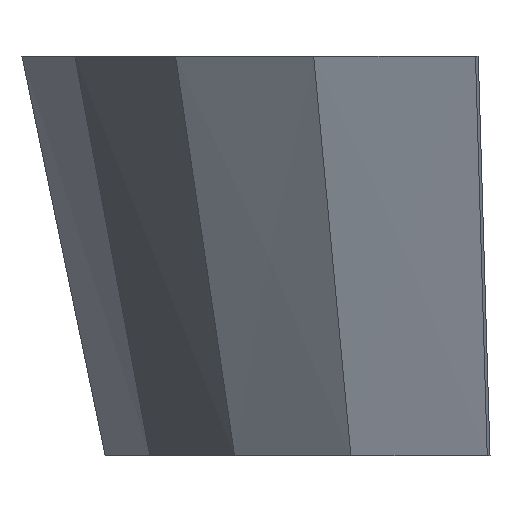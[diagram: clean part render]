
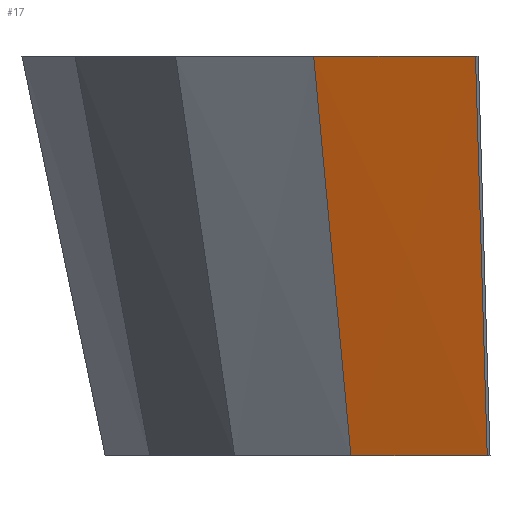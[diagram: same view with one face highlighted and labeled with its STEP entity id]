
A CAD part, left-side view. The second image highlights one B-rep face of the part: STEP entity #17.
In plain terms, the highlighted free-form (B-spline) face has degree [1, 1] with [2, 2] control points.
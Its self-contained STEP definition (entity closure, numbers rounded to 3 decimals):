
#17 = ADVANCED_FACE('',(#18),#31,.T.);
#18 = FACE_BOUND('',#19,.T.);
#19 = EDGE_LOOP('',(#20,#54,#79,#106));
#20 = ORIENTED_EDGE('',*,*,#21,.F.);
#21 = EDGE_CURVE('',#22,#24,#26,.T.);
#22 = VERTEX_POINT('',#23);
#23 = CARTESIAN_POINT('',(-121.386,13.051,-175.));
#24 = VERTEX_POINT('',#25);
#25 = CARTESIAN_POINT('',(-112.144,10.995,-245.));
#26 = SURFACE_CURVE('',#27,(#30,#42),.PCURVE_S1.);
#27 = B_SPLINE_CURVE_WITH_KNOTS('',1,(#28,#29),.UNSPECIFIED.,.F.,.F.,(2,
    2),(0.,1.),.PIECEWISE_BEZIER_KNOTS.);
#28 = CARTESIAN_POINT('',(-124.027,13.639,-155.));
#29 = CARTESIAN_POINT('',(-112.144,10.995,-245.));
#30 = PCURVE('',#31,#36);
#31 = B_SPLINE_SURFACE_WITH_KNOTS('',1,1,(
    (#32,#33)
    ,(#34,#35
    )),.UNSPECIFIED.,.F.,.F.,.F.,(2,2),(2,2),(0.,31.092),(0.,1.
    ),.PIECEWISE_BEZIER_KNOTS.);
#32 = CARTESIAN_POINT('',(-124.027,13.639,-155.));
#33 = CARTESIAN_POINT('',(-112.144,10.995,-245.));
#34 = CARTESIAN_POINT('',(-114.709,43.302,-155.));
#35 = CARTESIAN_POINT('',(-103.944,34.906,-245.));
#36 = DEFINITIONAL_REPRESENTATION('',(#37),#41);
#37 = LINE('',#38,#39);
#38 = CARTESIAN_POINT('',(0.,0.));
#39 = VECTOR('',#40,1.);
#40 = DIRECTION('',(0.,1.));
#41 = ( GEOMETRIC_REPRESENTATION_CONTEXT(2) 
PARAMETRIC_REPRESENTATION_CONTEXT() REPRESENTATION_CONTEXT('2D SPACE',''
  ) );
#42 = PCURVE('',#43,#48);
#43 = B_SPLINE_SURFACE_WITH_KNOTS('',1,1,(
    (#44,#45)
    ,(#46,#47)),.UNSPECIFIED.,.F.,.F.,.F.,(2,2),(2,2),(0.,3.5),(0.,1.),
  .PIECEWISE_BEZIER_KNOTS.);
#44 = CARTESIAN_POINT('',(-120.561,13.152,-155.));
#45 = CARTESIAN_POINT('',(-108.678,10.508,-245.));
#46 = CARTESIAN_POINT('',(-124.027,13.639,-155.));
#47 = CARTESIAN_POINT('',(-112.144,10.995,-245.));
#48 = DEFINITIONAL_REPRESENTATION('',(#49),#53);
#49 = LINE('',#50,#51);
#50 = CARTESIAN_POINT('',(3.5,0.));
#51 = VECTOR('',#52,1.);
#52 = DIRECTION('',(0.,1.));
#53 = ( GEOMETRIC_REPRESENTATION_CONTEXT(2) 
PARAMETRIC_REPRESENTATION_CONTEXT() REPRESENTATION_CONTEXT('2D SPACE',''
  ) );
#54 = ORIENTED_EDGE('',*,*,#55,.F.);
#55 = EDGE_CURVE('',#56,#22,#58,.T.);
#56 = VERTEX_POINT('',#57);
#57 = CARTESIAN_POINT('',(-112.316,41.436,-175.));
#58 = SURFACE_CURVE('',#59,(#62,#68),.PCURVE_S1.);
#59 = B_SPLINE_CURVE_WITH_KNOTS('',1,(#60,#61),.UNSPECIFIED.,.F.,.F.,(2,
    2),(0.,1.),.PIECEWISE_BEZIER_KNOTS.);
#60 = CARTESIAN_POINT('',(-112.316,41.436,-175.));
#61 = CARTESIAN_POINT('',(-121.386,13.051,-175.));
#62 = PCURVE('',#31,#63);
#63 = DEFINITIONAL_REPRESENTATION('',(#64),#67);
#64 = B_SPLINE_CURVE_WITH_KNOTS('',1,(#65,#66),.UNSPECIFIED.,.F.,.F.,(2,
    2),(0.,1.),.PIECEWISE_BEZIER_KNOTS.);
#65 = CARTESIAN_POINT('',(31.092,0.222));
#66 = CARTESIAN_POINT('',(0.,0.222));
#67 = ( GEOMETRIC_REPRESENTATION_CONTEXT(2) 
PARAMETRIC_REPRESENTATION_CONTEXT() REPRESENTATION_CONTEXT('2D SPACE',''
  ) );
#68 = PCURVE('',#69,#74);
#69 = PLANE('',#70);
#70 = AXIS2_PLACEMENT_3D('',#71,#72,#73);
#71 = CARTESIAN_POINT('',(-250.,-100.,-175.));
#72 = DIRECTION('',(0.,0.,1.));
#73 = DIRECTION('',(1.,0.,0.));
#74 = DEFINITIONAL_REPRESENTATION('',(#75),#78);
#75 = B_SPLINE_CURVE_WITH_KNOTS('',1,(#76,#77),.UNSPECIFIED.,.F.,.F.,(2,
    2),(0.,1.),.PIECEWISE_BEZIER_KNOTS.);
#76 = CARTESIAN_POINT('',(137.684,141.436));
#77 = CARTESIAN_POINT('',(128.614,113.051));
#78 = ( GEOMETRIC_REPRESENTATION_CONTEXT(2) 
PARAMETRIC_REPRESENTATION_CONTEXT() REPRESENTATION_CONTEXT('2D SPACE',''
  ) );
#79 = ORIENTED_EDGE('',*,*,#80,.T.);
#80 = EDGE_CURVE('',#56,#81,#83,.T.);
#81 = VERTEX_POINT('',#82);
#82 = CARTESIAN_POINT('',(-103.944,34.906,-245.));
#83 = SURFACE_CURVE('',#84,(#87,#94),.PCURVE_S1.);
#84 = B_SPLINE_CURVE_WITH_KNOTS('',1,(#85,#86),.UNSPECIFIED.,.F.,.F.,(2,
    2),(0.,1.),.PIECEWISE_BEZIER_KNOTS.);
#85 = CARTESIAN_POINT('',(-114.709,43.302,-155.));
#86 = CARTESIAN_POINT('',(-103.944,34.906,-245.));
#87 = PCURVE('',#31,#88);
#88 = DEFINITIONAL_REPRESENTATION('',(#89),#93);
#89 = LINE('',#90,#91);
#90 = CARTESIAN_POINT('',(31.092,0.));
#91 = VECTOR('',#92,1.);
#92 = DIRECTION('',(0.,1.));
#93 = ( GEOMETRIC_REPRESENTATION_CONTEXT(2) 
PARAMETRIC_REPRESENTATION_CONTEXT() REPRESENTATION_CONTEXT('2D SPACE',''
  ) );
#94 = PCURVE('',#95,#100);
#95 = B_SPLINE_SURFACE_WITH_KNOTS('',1,1,(
    (#96,#97)
    ,(#98,#99
    )),.UNSPECIFIED.,.F.,.F.,.F.,(2,2),(2,2),(0.,31.25),(0.,1.
    ),.PIECEWISE_BEZIER_KNOTS.);
#96 = CARTESIAN_POINT('',(-114.709,43.302,-155.));
#97 = CARTESIAN_POINT('',(-103.944,34.906,-245.));
#98 = CARTESIAN_POINT('',(-96.393,68.621,-155.));
#99 = CARTESIAN_POINT('',(-87.826,55.317,-245.));
#100 = DEFINITIONAL_REPRESENTATION('',(#101),#105);
#101 = LINE('',#102,#103);
#102 = CARTESIAN_POINT('',(0.,0.));
#103 = VECTOR('',#104,1.);
#104 = DIRECTION('',(0.,1.));
#105 = ( GEOMETRIC_REPRESENTATION_CONTEXT(2) 
PARAMETRIC_REPRESENTATION_CONTEXT() REPRESENTATION_CONTEXT('2D SPACE',''
  ) );
#106 = ORIENTED_EDGE('',*,*,#107,.F.);
#107 = EDGE_CURVE('',#24,#81,#108,.T.);
#108 = SURFACE_CURVE('',#109,(#113,#119),.PCURVE_S1.);
#109 = LINE('',#110,#111);
#110 = CARTESIAN_POINT('',(-112.144,10.995,-245.));
#111 = VECTOR('',#112,1.);
#112 = DIRECTION('',(0.324,0.946,0.));
#113 = PCURVE('',#31,#114);
#114 = DEFINITIONAL_REPRESENTATION('',(#115),#118);
#115 = B_SPLINE_CURVE_WITH_KNOTS('',1,(#116,#117),.UNSPECIFIED.,.F.,.F.,
  (2,2),(0.,25.279),.PIECEWISE_BEZIER_KNOTS.);
#116 = CARTESIAN_POINT('',(0.,1.));
#117 = CARTESIAN_POINT('',(31.092,1.));
#118 = ( GEOMETRIC_REPRESENTATION_CONTEXT(2) 
PARAMETRIC_REPRESENTATION_CONTEXT() REPRESENTATION_CONTEXT('2D SPACE',''
  ) );
#119 = PCURVE('',#120,#125);
#120 = PLANE('',#121);
#121 = AXIS2_PLACEMENT_3D('',#122,#123,#124);
#122 = CARTESIAN_POINT('',(-112.144,10.995,-245.));
#123 = DIRECTION('',(0.,0.,1.));
#124 = DIRECTION('',(1.,0.,-0.));
#125 = DEFINITIONAL_REPRESENTATION('',(#126),#130);
#126 = LINE('',#127,#128);
#127 = CARTESIAN_POINT('',(0.,0.));
#128 = VECTOR('',#129,1.);
#129 = DIRECTION('',(0.324,0.946));
#130 = ( GEOMETRIC_REPRESENTATION_CONTEXT(2) 
PARAMETRIC_REPRESENTATION_CONTEXT() REPRESENTATION_CONTEXT('2D SPACE',''
  ) );
